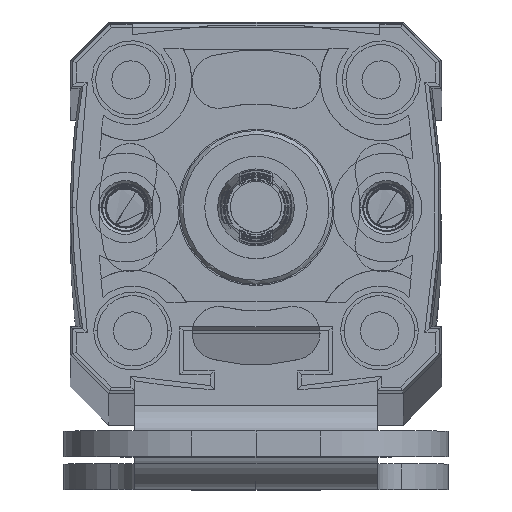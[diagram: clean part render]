
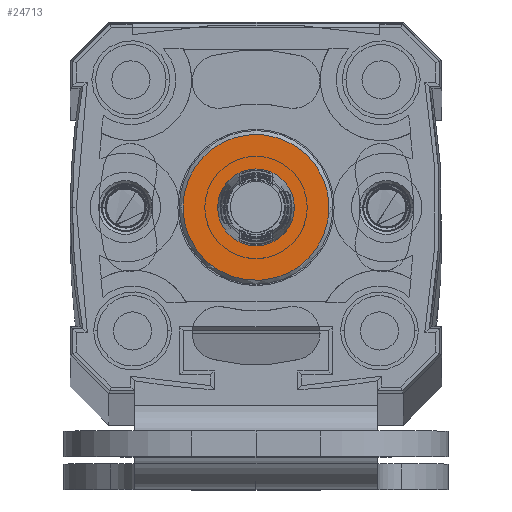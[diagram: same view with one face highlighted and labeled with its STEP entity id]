
A CAD part, top view. The second image highlights one B-rep face of the part: STEP entity #24713.
In plain terms, the highlighted planar face has unit normal (0, 0, 1).
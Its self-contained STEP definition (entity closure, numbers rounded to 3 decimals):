
#50 = ORIENTED_EDGE ( 'NONE', *, *, #11584, .T. ) ;
#213 = DIRECTION ( 'NONE',  ( 0., 0., -1. ) ) ;
#716 = CARTESIAN_POINT ( 'NONE',  ( 0., 6.5, 12. ) ) ;
#2316 = DIRECTION ( 'NONE',  ( -1., 0., 0. ) ) ;
#3480 = CARTESIAN_POINT ( 'NONE',  ( -5.7, 6.5, 12. ) ) ;
#4274 = EDGE_LOOP ( 'NONE', ( #12599, #24894 ) ) ;
#4474 = CARTESIAN_POINT ( 'NONE',  ( 0., 6.5, 12. ) ) ;
#5007 = PLANE ( 'NONE',  #5867 ) ;
#5069 = CARTESIAN_POINT ( 'NONE',  ( 5.7, 17.9, 12. ) ) ;
#5627 = CARTESIAN_POINT ( 'NONE',  ( 5.7, 6.5, 12. ) ) ;
#5867 = AXIS2_PLACEMENT_3D ( 'NONE', #716, #12084, #21932 ) ;
#6252 = ORIENTED_EDGE ( 'NONE', *, *, #10434, .T. ) ;
#7453 = VERTEX_POINT ( 'NONE', #26708 ) ;
#7770 = FACE_BOUND ( 'NONE', #25579, .T. ) ;
#7926 = CARTESIAN_POINT ( 'NONE',  ( 2., 6.5, 12. ) ) ;
#9226 = DIRECTION ( 'NONE',  ( 0., 0., -1. ) ) ;
#9261 = CARTESIAN_POINT ( 'NONE',  ( 5.7, 6.5, 12. ) ) ;
#10090 = FACE_OUTER_BOUND ( 'NONE', #4274, .T. ) ;
#10101 = CARTESIAN_POINT ( 'NONE',  ( -5.7, -4.9, 12. ) ) ;
#10434 = EDGE_CURVE ( 'NONE', #25853, #13279, #26255, .T. ) ;
#10541 = AXIS2_PLACEMENT_3D ( 'NONE', #21570, #213, #28492 ) ;
#11584 = EDGE_CURVE ( 'NONE', #13279, #25853, #15003, .T. ) ;
#12084 = DIRECTION ( 'NONE',  ( 0., 0., 1. ) ) ;
#12599 = ORIENTED_EDGE ( 'NONE', *, *, #16526, .F. ) ;
#13279 = VERTEX_POINT ( 'NONE', #7926 ) ;
#15003 = CIRCLE ( 'NONE', #24024, 2. ) ;
#16526 = EDGE_CURVE ( 'NONE', #7453, #27830, #25795, .T. ) ;
#16768 = CARTESIAN_POINT ( 'NONE',  ( -5.7, 6.5, 12. ) ) ;
#18761 =( BOUNDED_CURVE ( )  B_SPLINE_CURVE ( 3, ( #5627, #26389, #10101, #3480 ),
 .UNSPECIFIED., .F., .F. ) 
 B_SPLINE_CURVE_WITH_KNOTS ( ( 4, 4 ),
 ( 0., 0.5 ),
 .UNSPECIFIED. ) 
 CURVE ( )  GEOMETRIC_REPRESENTATION_ITEM ( )  RATIONAL_B_SPLINE_CURVE ( ( 1., 0.333, 0.333, 1. ) ) 
 REPRESENTATION_ITEM ( '' )  );
#21570 = CARTESIAN_POINT ( 'NONE',  ( 0., 6.5, 12. ) ) ;
#21932 = DIRECTION ( 'NONE',  ( 1., 0., 0. ) ) ;
#23833 = CARTESIAN_POINT ( 'NONE',  ( 5.7, 6.5, 12. ) ) ;
#24024 = AXIS2_PLACEMENT_3D ( 'NONE', #4474, #9226, #2316 ) ;
#24713 = ADVANCED_FACE ( 'NONE', ( #7770, #10090 ), #5007, .T. ) ;
#24894 = ORIENTED_EDGE ( 'NONE', *, *, #27015, .F. ) ;
#25579 = EDGE_LOOP ( 'NONE', ( #6252, #50 ) ) ;
#25795 =( BOUNDED_CURVE ( )  B_SPLINE_CURVE ( 3, ( #16768, #26139, #5069, #23833 ),
 .UNSPECIFIED., .F., .T. ) 
 B_SPLINE_CURVE_WITH_KNOTS ( ( 4, 4 ),
 ( 0.5, 1. ),
 .UNSPECIFIED. ) 
 CURVE ( )  GEOMETRIC_REPRESENTATION_ITEM ( )  RATIONAL_B_SPLINE_CURVE ( ( 1., 0.333, 0.333, 1. ) ) 
 REPRESENTATION_ITEM ( '' )  );
#25853 = VERTEX_POINT ( 'NONE', #27931 ) ;
#26139 = CARTESIAN_POINT ( 'NONE',  ( -5.7, 17.9, 12. ) ) ;
#26255 = CIRCLE ( 'NONE', #10541, 2. ) ;
#26389 = CARTESIAN_POINT ( 'NONE',  ( 5.7, -4.9, 12. ) ) ;
#26708 = CARTESIAN_POINT ( 'NONE',  ( -5.7, 6.5, 12. ) ) ;
#27015 = EDGE_CURVE ( 'NONE', #27830, #7453, #18761, .T. ) ;
#27830 = VERTEX_POINT ( 'NONE', #9261 ) ;
#27931 = CARTESIAN_POINT ( 'NONE',  ( -2., 6.5, 12. ) ) ;
#28492 = DIRECTION ( 'NONE',  ( -1., 0., 0. ) ) ;
